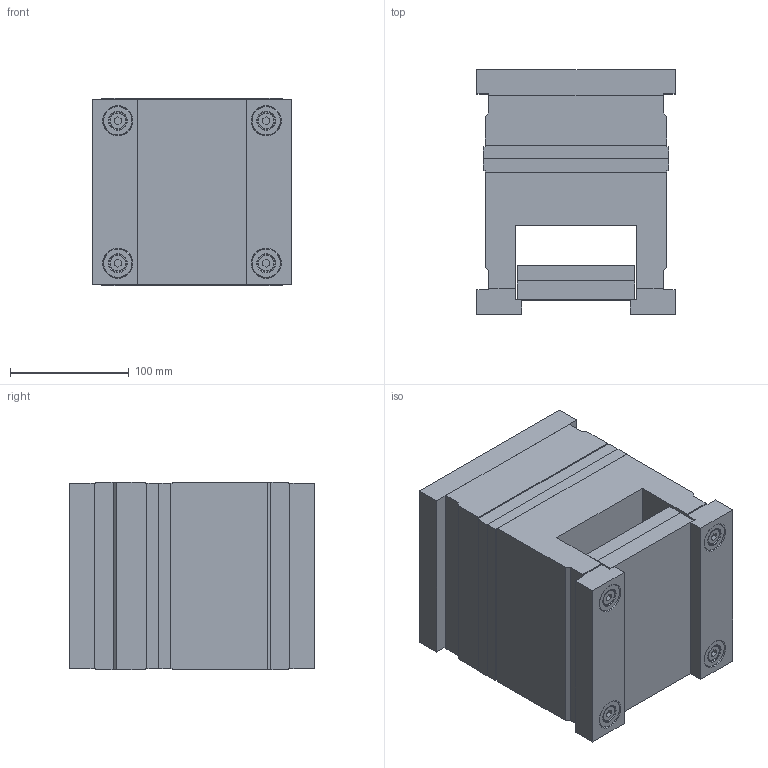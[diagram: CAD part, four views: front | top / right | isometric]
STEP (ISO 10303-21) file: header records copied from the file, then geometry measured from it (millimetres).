
FILE_DESCRIPTION (( 'STEP AP214' ), '1' );
FILE_NAME ('1561.STEP', '2002-07-10T07:49:17', ( 'Simcha Kilim' ), ( 'K. Plastics Engineering' ), 'SwSTEP 2.0', 'SolidWorks 2002025', '' );
FILE_SCHEMA (( 'AUTOMOTIVE_DESIGN' ));
Length unit declared in the file: millimetre
Products named in the file (12): 1561; ALMO (ejector return plate)_1561; ALMO (guide bush)_Ø15; ALMO (ejector half)_1561; ALMO (guide pin)_Ø15; ALMO (hot half)_1561; ALMO (guide pin)_Ø14; ALMO (guide bush)_Ø14; ALMO (ejector plate)_1561; ALMO (key plate)_Ø14; ALMO (screw)_M8x90; ALMO (screw)_M8x50
Assembly tree (28 placements, depth 2):
  1561
    ALMO (guide bush)_Ø14  x3
    ALMO (ejector plate)_1561
    ALMO (screw)_M8x90  x4
    ALMO (screw)_M8x50  x4
    ALMO (ejector return plate)_1561
    ALMO (guide pin)_Ø14  x3
    ALMO (key plate)_Ø14  x8
    ALMO (guide pin)_Ø15
    ALMO (ejector half)_1561
    ALMO (hot half)_1561
    ALMO (guide bush)_Ø15
Bounding box: 167 x 206 x 158 mm (x, y, z)
Volume: 4211625.5 mm3; surface area: 442589.1 mm2
Topology: 28 solids, 28 shells, 706 faces, 1496 edges, 924 vertices
Faces by surface type: cylinder 260, plane 254, cone 192
Entity records: 10477 total; most frequent: DIRECTION 1914, CARTESIAN_POINT 1683, ORIENTED_EDGE 1584, EDGE_CURVE 792, AXIS2_PLACEMENT_3D 729, VERTEX_POINT 498, LINE 456, VECTOR 456
